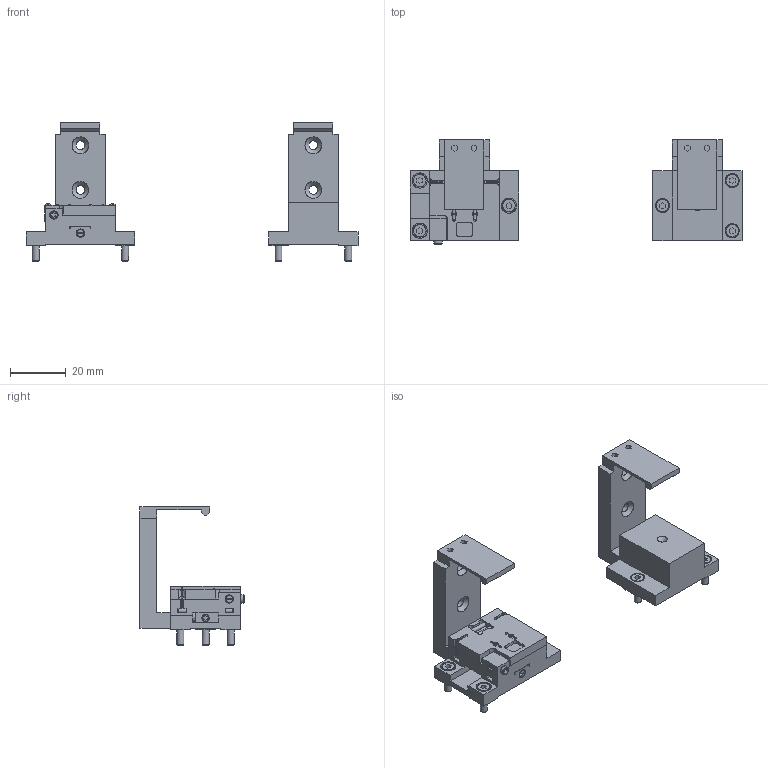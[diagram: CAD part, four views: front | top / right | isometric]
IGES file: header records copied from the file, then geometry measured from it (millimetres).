
Global section: file name: Y:\Applications & Technical Support Group\01 - Team members - MOVE TO DEPT\Laurence Rosser\LA-RAM10-SX-XX RAM MIRROR MOUNT KIT\LA_RAM10_SX_XX_A.igs; native system: NX V7.5; preprocessor: SIEMENS PLM Software NX 7.5; date: 20141121.125415; units: millimetre
Bounding box: 119 x 37.3 x 49.5 mm (x, y, z)
Surface area: 18660.7 mm2 (no closed solid volume)
Topology: 0 solids, 0 shells, 645 faces, 4687 edges, 4538 vertices
Faces by surface type: bspline 645
